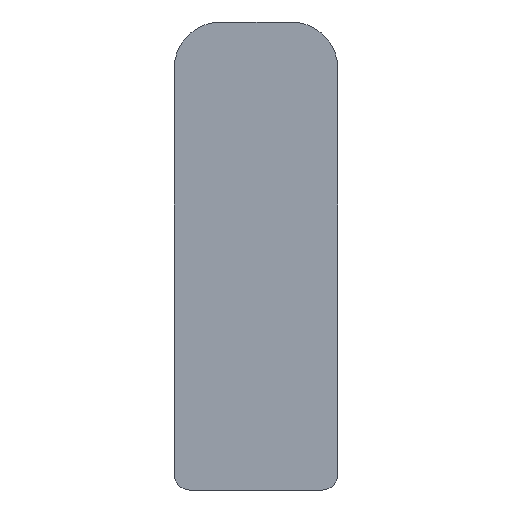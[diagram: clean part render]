
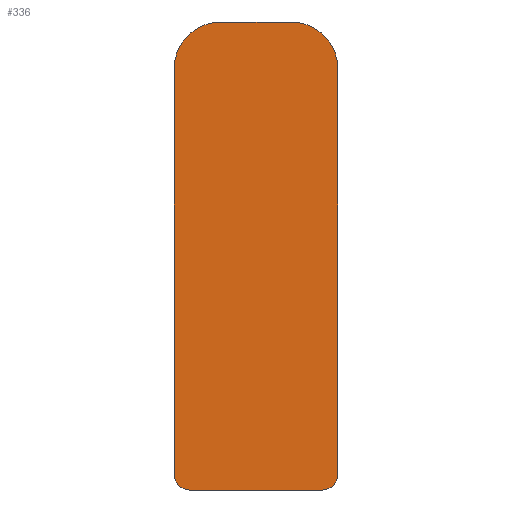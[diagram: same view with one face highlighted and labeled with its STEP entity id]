
A CAD part, left-side view. The second image highlights one B-rep face of the part: STEP entity #336.
In plain terms, the highlighted planar face has unit normal (-1, 0, 0).
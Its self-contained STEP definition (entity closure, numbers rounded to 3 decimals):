
#7 = VECTOR ( 'NONE', #308, 1000. ) ;
#8 = LINE ( 'NONE', #310, #7 ) ;
#12 = CIRCLE ( 'NONE', #107, 3. ) ;
#19 = VECTOR ( 'NONE', #328, 1000. ) ;
#20 = LINE ( 'NONE', #330, #19 ) ;
#22 = CIRCLE ( 'NONE', #109, 3. ) ;
#62 = EDGE_LOOP ( 'NONE', ( #69, #71, #72, #70, #75, #76, #77, #78 ) ) ;
#69 = ORIENTED_EDGE ( 'NONE', *, *, #116, .T. ) ;
#70 = ORIENTED_EDGE ( 'NONE', *, *, #125, .T. ) ;
#71 = ORIENTED_EDGE ( 'NONE', *, *, #119, .T. ) ;
#72 = ORIENTED_EDGE ( 'NONE', *, *, #122, .T. ) ;
#75 = ORIENTED_EDGE ( 'NONE', *, *, #128, .T. ) ;
#76 = ORIENTED_EDGE ( 'NONE', *, *, #131, .T. ) ;
#77 = ORIENTED_EDGE ( 'NONE', *, *, #134, .T. ) ;
#78 = ORIENTED_EDGE ( 'NONE', *, *, #136, .T. ) ;
#97 = AXIS2_PLACEMENT_3D ( 'NONE', #229, #228, #226 ) ;
#103 = AXIS2_PLACEMENT_3D ( 'NONE', #279, #278, #277 ) ;
#105 = AXIS2_PLACEMENT_3D ( 'NONE', #300, #298, #297 ) ;
#107 = AXIS2_PLACEMENT_3D ( 'NONE', #320, #319, #317 ) ;
#109 = AXIS2_PLACEMENT_3D ( 'NONE', #210, #207, #203 ) ;
#116 = EDGE_CURVE ( 'NONE', #323, #329, #22, .T. ) ;
#119 = EDGE_CURVE ( 'NONE', #329, #306, #20, .T. ) ;
#122 = EDGE_CURVE ( 'NONE', #306, #318, #12, .T. ) ;
#125 = EDGE_CURVE ( 'NONE', #318, #290, #8, .T. ) ;
#128 = EDGE_CURVE ( 'NONE', #290, #316, #141, .T. ) ;
#131 = EDGE_CURVE ( 'NONE', #316, #293, #139, .T. ) ;
#134 = EDGE_CURVE ( 'NONE', #293, #280, #174, .T. ) ;
#136 = EDGE_CURVE ( 'NONE', #280, #323, #172, .T. ) ;
#137 = VECTOR ( 'NONE', #288, 1000. ) ;
#139 = LINE ( 'NONE', #289, #137 ) ;
#141 = CIRCLE ( 'NONE', #105, 1. ) ;
#162 = FACE_OUTER_BOUND ( 'NONE', #62, .T. ) ;
#171 = VECTOR ( 'NONE', #271, 1000. ) ;
#172 = LINE ( 'NONE', #272, #171 ) ;
#174 = CIRCLE ( 'NONE', #103, 1. ) ;
#203 = DIRECTION ( 'NONE',  ( 0., 0., 1. ) ) ;
#207 = DIRECTION ( 'NONE',  ( -1., 0., 0. ) ) ;
#210 = CARTESIAN_POINT ( 'NONE',  ( -378.25, -2.25, 27. ) ) ;
#226 = DIRECTION ( 'NONE',  ( 0., 0., 1. ) ) ;
#228 = DIRECTION ( 'NONE',  ( -1., 0., 0. ) ) ;
#229 = CARTESIAN_POINT ( 'NONE',  ( -378.25, -2.25, 27. ) ) ;
#230 = PLANE ( 'NONE',  #97 ) ;
#247 = CARTESIAN_POINT ( 'NONE',  ( -378.25, -2.25, 30. ) ) ;
#248 = CARTESIAN_POINT ( 'NONE',  ( -378.25, -5.25, 27. ) ) ;
#250 = CARTESIAN_POINT ( 'NONE',  ( -378.25, 5.25, 27. ) ) ;
#251 = CARTESIAN_POINT ( 'NONE',  ( -378.25, 4.25, 0. ) ) ;
#254 = CARTESIAN_POINT ( 'NONE',  ( -378.25, 2.25, 30. ) ) ;
#258 = CARTESIAN_POINT ( 'NONE',  ( -378.25, -4.25, 0. ) ) ;
#259 = CARTESIAN_POINT ( 'NONE',  ( -378.25, 5.25, 1. ) ) ;
#262 = CARTESIAN_POINT ( 'NONE',  ( -378.25, -5.25, 1. ) ) ;
#271 = DIRECTION ( 'NONE',  ( 0., 0., 1. ) ) ;
#272 = CARTESIAN_POINT ( 'NONE',  ( -378.25, -5.25, 1. ) ) ;
#277 = DIRECTION ( 'NONE',  ( 0., 0., -1. ) ) ;
#278 = DIRECTION ( 'NONE',  ( -1., 0., 0. ) ) ;
#279 = CARTESIAN_POINT ( 'NONE',  ( -378.25, -4.25, 1. ) ) ;
#280 = VERTEX_POINT ( 'NONE', #262 ) ;
#288 = DIRECTION ( 'NONE',  ( 0., -1., 0. ) ) ;
#289 = CARTESIAN_POINT ( 'NONE',  ( -378.25, -4.25, 0. ) ) ;
#290 = VERTEX_POINT ( 'NONE', #259 ) ;
#293 = VERTEX_POINT ( 'NONE', #258 ) ;
#297 = DIRECTION ( 'NONE',  ( 0., 0., -1. ) ) ;
#298 = DIRECTION ( 'NONE',  ( -1., 0., 0. ) ) ;
#300 = CARTESIAN_POINT ( 'NONE',  ( -378.25, 4.25, 1. ) ) ;
#306 = VERTEX_POINT ( 'NONE', #254 ) ;
#308 = DIRECTION ( 'NONE',  ( 0., 0., -1. ) ) ;
#310 = CARTESIAN_POINT ( 'NONE',  ( -378.25, 5.25, 1. ) ) ;
#316 = VERTEX_POINT ( 'NONE', #251 ) ;
#317 = DIRECTION ( 'NONE',  ( 0., 0., -1. ) ) ;
#318 = VERTEX_POINT ( 'NONE', #250 ) ;
#319 = DIRECTION ( 'NONE',  ( -1., 0., 0. ) ) ;
#320 = CARTESIAN_POINT ( 'NONE',  ( -378.25, 2.25, 27. ) ) ;
#323 = VERTEX_POINT ( 'NONE', #248 ) ;
#328 = DIRECTION ( 'NONE',  ( 0., 1., 0. ) ) ;
#329 = VERTEX_POINT ( 'NONE', #247 ) ;
#330 = CARTESIAN_POINT ( 'NONE',  ( -378.25, -2.25, 30. ) ) ;
#336 = ADVANCED_FACE ( 'NONE', ( #162 ), #230, .T. ) ;
